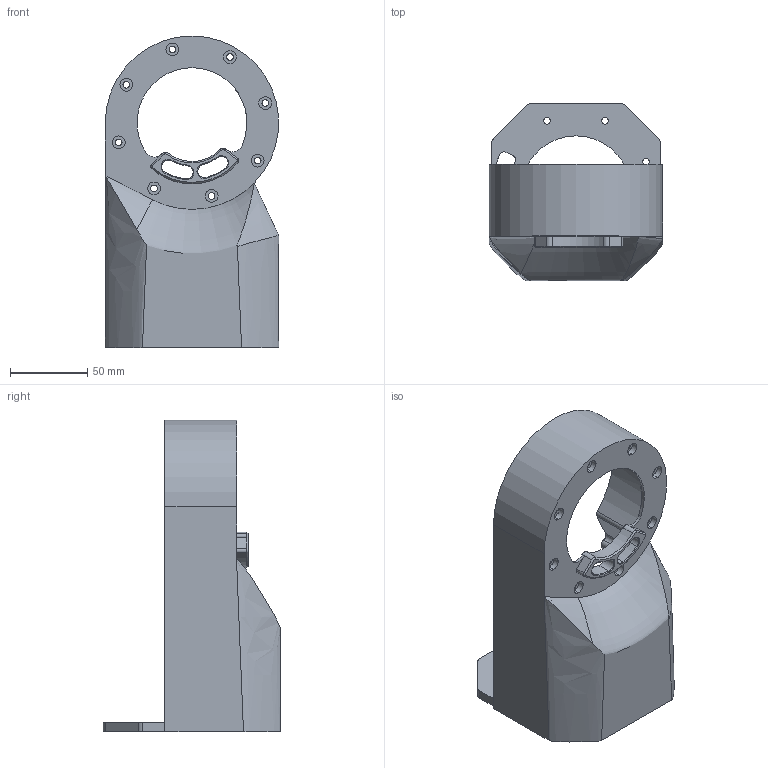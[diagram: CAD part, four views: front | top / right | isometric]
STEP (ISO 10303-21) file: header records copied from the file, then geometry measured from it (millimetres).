
FILE_DESCRIPTION((''),'2;1');
FILE_NAME('KD-D-201R_1','2025-07-12T17:26:08',('Administrator'),(''),'CREO PARAMETRIC BY PTC INC, 2022073','CREO PARAMETRIC BY PTC INC, 2022073','');
FILE_SCHEMA(('CONFIG_CONTROL_DESIGN'));
Length unit declared in the file: millimetre
Products named in the file (1): KD-D-201R_1
Bounding box: 112 x 114.5 x 201.5 mm (x, y, z)
Volume: 159559.8 mm3; surface area: 106138.3 mm2
Topology: 1 solids, 1 shells, 333 faces, 960 edges, 638 vertices
Faces by surface type: cylinder 156, plane 69, cone 42, bspline 36, torus 26, revolution 2, extrusion 2
Entity records: 13855 total; most frequent: CARTESIAN_POINT 4829, DIRECTION 1965, ORIENTED_EDGE 1902, EDGE_CURVE 951, AXIS2_PLACEMENT_3D 816, VERTEX_POINT 638, CIRCLE 523, EDGE_LOOP 389
